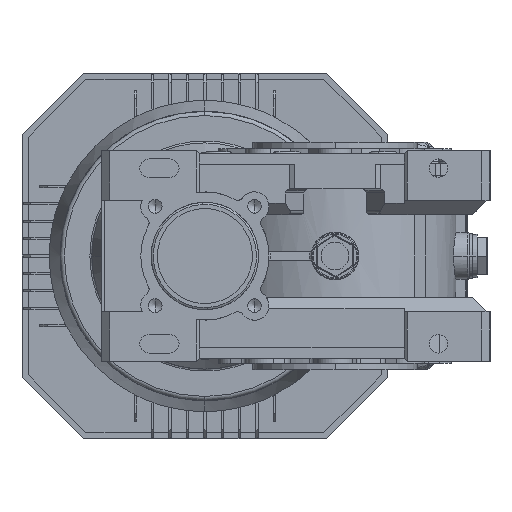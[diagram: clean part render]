
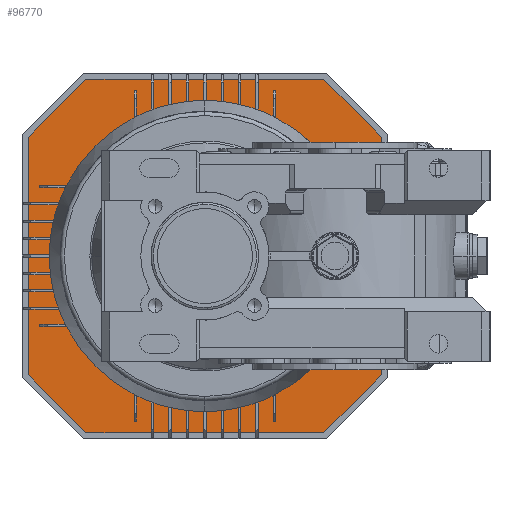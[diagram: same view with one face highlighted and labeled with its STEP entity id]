
A CAD part, left-side view. The second image highlights one B-rep face of the part: STEP entity #96770.
In plain terms, the highlighted planar face has unit normal (-1, 0, 0).
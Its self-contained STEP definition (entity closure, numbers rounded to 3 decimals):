
#88814=CARTESIAN_POINT('',(267.4,0.,-57.2));
#88815=VERTEX_POINT('',#88814);
#88831=CARTESIAN_POINT('',(267.4,0.,57.2));
#88832=VERTEX_POINT('',#88831);
#88839=CARTESIAN_POINT('',(267.4,0.,0.));
#88840=DIRECTION('',(-1.0,0.0,0.0));
#88841=DIRECTION('',(0.0,0.0,-1.0));
#88842=AXIS2_PLACEMENT_3D('',#88839,#88840,#88841);
#88843=CIRCLE('',#88842,57.2);
#88844=EDGE_CURVE('',#88832,#88815,#88843,.T.);
#95285=CARTESIAN_POINT('',(267.4,0.,0.));
#95286=DIRECTION('',(-1.0,0.0,0.0));
#95287=DIRECTION('',(0.0,0.0,-1.0));
#95288=AXIS2_PLACEMENT_3D('',#95285,#95286,#95287);
#95289=CIRCLE('',#95288,57.2);
#95290=EDGE_CURVE('',#88815,#88832,#95289,.T.);
#95308=CARTESIAN_POINT('',(267.4,-57.559,85.5));
#95309=VERTEX_POINT('',#95308);
#95310=CARTESIAN_POINT('',(267.4,57.559,85.5));
#95311=VERTEX_POINT('',#95310);
#95312=CARTESIAN_POINT('',(267.4,-57.559,85.5));
#95313=DIRECTION('',(0.0,1.0,0.0));
#95314=VECTOR('',#95313,115.118);
#95315=LINE('',#95312,#95314);
#95316=EDGE_CURVE('',#95309,#95311,#95315,.T.);
#95348=CARTESIAN_POINT('',(267.4,85.5,57.559));
#95349=VERTEX_POINT('',#95348);
#95350=CARTESIAN_POINT('',(267.4,57.559,85.5));
#95351=DIRECTION('',(0.0,0.707,-0.707));
#95352=VECTOR('',#95351,39.515);
#95353=LINE('',#95350,#95352);
#95354=EDGE_CURVE('',#95311,#95349,#95353,.T.);
#95379=CARTESIAN_POINT('',(267.4,85.5,-57.559));
#95380=VERTEX_POINT('',#95379);
#95381=CARTESIAN_POINT('',(267.4,85.5,57.559));
#95382=DIRECTION('',(0.0,0.0,-1.0));
#95383=VECTOR('',#95382,115.118);
#95384=LINE('',#95381,#95383);
#95385=EDGE_CURVE('',#95349,#95380,#95384,.T.);
#95410=CARTESIAN_POINT('',(267.4,57.559,-85.5));
#95411=VERTEX_POINT('',#95410);
#95412=CARTESIAN_POINT('',(267.4,85.5,-57.559));
#95413=DIRECTION('',(0.0,-0.707,-0.707));
#95414=VECTOR('',#95413,39.515);
#95415=LINE('',#95412,#95414);
#95416=EDGE_CURVE('',#95380,#95411,#95415,.T.);
#95441=CARTESIAN_POINT('',(267.4,-57.559,-85.5));
#95442=VERTEX_POINT('',#95441);
#95443=CARTESIAN_POINT('',(267.4,57.559,-85.5));
#95444=DIRECTION('',(0.0,-1.0,0.0));
#95445=VECTOR('',#95444,115.118);
#95446=LINE('',#95443,#95445);
#95447=EDGE_CURVE('',#95411,#95442,#95446,.T.);
#95472=CARTESIAN_POINT('',(267.4,-85.5,-57.559));
#95473=VERTEX_POINT('',#95472);
#95474=CARTESIAN_POINT('',(267.4,-57.559,-85.5));
#95475=DIRECTION('',(0.0,-0.707,0.707));
#95476=VECTOR('',#95475,39.515);
#95477=LINE('',#95474,#95476);
#95478=EDGE_CURVE('',#95442,#95473,#95477,.T.);
#95503=CARTESIAN_POINT('',(267.4,-85.5,57.559));
#95504=VERTEX_POINT('',#95503);
#95505=CARTESIAN_POINT('',(267.4,-85.5,-57.559));
#95506=DIRECTION('',(0.0,0.0,1.0));
#95507=VECTOR('',#95506,115.118);
#95508=LINE('',#95505,#95507);
#95509=EDGE_CURVE('',#95473,#95504,#95508,.T.);
#95534=CARTESIAN_POINT('',(267.4,-85.5,57.559));
#95535=DIRECTION('',(0.0,0.707,0.707));
#95536=VECTOR('',#95535,39.515);
#95537=LINE('',#95534,#95536);
#95538=EDGE_CURVE('',#95504,#95309,#95537,.T.);
#96751=CARTESIAN_POINT('',(267.4,0.,0.));
#96752=DIRECTION('',(1.0,0.0,0.0));
#96753=DIRECTION('',(0.0,0.0,-1.0));
#96754=AXIS2_PLACEMENT_3D('',#96751,#96752,#96753);
#96755=PLANE('',#96754);
#96756=ORIENTED_EDGE('',*,*,#95316,.T.);
#96757=ORIENTED_EDGE('',*,*,#95354,.T.);
#96758=ORIENTED_EDGE('',*,*,#95385,.T.);
#96759=ORIENTED_EDGE('',*,*,#95416,.T.);
#96760=ORIENTED_EDGE('',*,*,#95447,.T.);
#96761=ORIENTED_EDGE('',*,*,#95478,.T.);
#96762=ORIENTED_EDGE('',*,*,#95509,.T.);
#96763=ORIENTED_EDGE('',*,*,#95538,.T.);
#96764=EDGE_LOOP('',(#96756,#96757,#96758,#96759,#96760,#96761,#96762,#96763));
#96765=FACE_OUTER_BOUND('',#96764,.T.);
#96766=ORIENTED_EDGE('',*,*,#88844,.F.);
#96767=ORIENTED_EDGE('',*,*,#95290,.F.);
#96768=EDGE_LOOP('',(#96766,#96767));
#96769=FACE_BOUND('',#96768,.T.);
#96770=ADVANCED_FACE('',(#96765,#96769),#96755,.F.);
